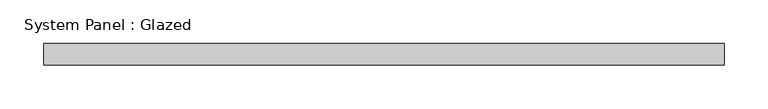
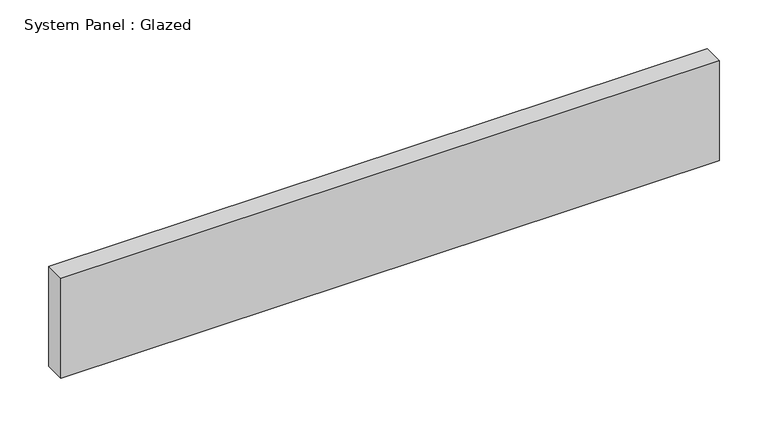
"""IFC4 building model written with IfcOpenShell, lengths in millimetres: plate geometry, System Panel : Glazed."""

import ifcopenshell
import ifcopenshell.guid

model = None  # the IFC model being written
_history = None  # IfcOwnerHistory: only IFC2X3 demands one
_inside = {}  # id of a spatial element -> (the spatial element, [elements in it])
_under = {}  # id of a project, library or spatial element -> (it, [spatial elements below it])
_declared = {}  # id of a project -> (the project, [libraries it declares])
_typed = {}  # id of a type object -> (the type object, [elements of that type])
_made_of = {}  # id of a material, layer set ... -> (it, [elements and type objects made of it])


def new_model(schema):
    """Start an empty IFC model of exactly this schema.

    Asked for "IFC4X3", IfcOpenShell would pick the latest addendum, in which some entities
    have other attributes; the version numbers below select the first issue.
    IFC2X3 requires an IfcOwnerHistory on every rooted entity: one is made here for all.
    """
    global model, _history
    if schema == "IFC4X3":
        model = ifcopenshell.file(schema_version=(4, 3, 0, 0))
    else:
        model = ifcopenshell.file(schema=schema)
    _inside.clear()
    _under.clear()
    _declared.clear()
    _typed.clear()
    _made_of.clear()
    _history = None
    if model.schema == "IFC2X3":
        org = make("IfcOrganization", Name="unknown")
        user = make(
            "IfcPersonAndOrganization",
            ThePerson=make("IfcPerson", FamilyName="unknown"),
            TheOrganization=org,
        )
        app = make(
            "IfcApplication",
            ApplicationDeveloper=org,
            Version="unknown",
            ApplicationFullName="unknown",
            ApplicationIdentifier="unknown",
        )
        _history = make(
            "IfcOwnerHistory",
            OwningUser=user,
            OwningApplication=app,
            ChangeAction="ADDED",
            CreationDate=0,
        )
    return model


def make(cls, **values):
    """One entity of the class cls with the attributes given. An attribute that is None is left unset."""
    return model.create_entity(
        cls, **{name: value for name, value in values.items() if value is not None}
    )


def rooted(cls, **values):
    """An entity with a GlobalId (a new one), such as an element, a storey or a relation."""
    return make(cls, GlobalId=ifcopenshell.guid.new(), OwnerHistory=_history, **values)


def si_unit(unit_type, name, prefix=None):
    """IfcSIUnit, for example si_unit("LENGTHUNIT", "METRE", prefix="MILLI")."""
    return make("IfcSIUnit", UnitType=unit_type, Prefix=prefix, Name=name)


def assignment(units):
    """IfcUnitAssignment: the units of a project."""
    return None if units is None else make("IfcUnitAssignment", Units=units)


def point(xyz):
    """IfcCartesianPoint."""
    return None if xyz is None else make("IfcCartesianPoint", Coordinates=xyz)


def direction(xyz):
    """IfcDirection."""
    return None if xyz is None else make("IfcDirection", DirectionRatios=xyz)


def frame(location, z_axis=None, x_axis=None):
    """IfcAxis2Placement3D, a coordinate frame: its origin and axes. An axis left out is left unset."""
    return make(
        "IfcAxis2Placement3D",
        Location=point(location),
        Axis=direction(z_axis),
        RefDirection=direction(x_axis),
    )


def origin():
    """The frame at (0, 0, 0) with its axes left unset."""
    return frame((0.0, 0.0, 0.0))


def origin_with_axes():
    """The frame at (0, 0, 0) with the z axis (0, 0, 1) and the x axis (1, 0, 0) written out."""
    return frame((0.0, 0.0, 0.0), z_axis=(0.0, 0.0, 1.0), x_axis=(1.0, 0.0, 0.0))


def place(relative_to, where):
    """IfcLocalPlacement: puts the frame where relative to a parent placement (None: the world)."""
    return make(
        "IfcLocalPlacement", PlacementRelTo=relative_to, RelativePlacement=where
    )


def context(
    kind, dimensions, precision=None, world=None, true_north=None, identifier=None
):
    """IfcGeometricRepresentationContext, for example the 3D "Model" context."""
    return make(
        "IfcGeometricRepresentationContext",
        ContextIdentifier=identifier,
        ContextType=kind,
        CoordinateSpaceDimension=dimensions,
        Precision=precision,
        WorldCoordinateSystem=world,
        TrueNorth=true_north,
    )


def project(units=None, contexts=None):
    """IfcProject with its units and contexts."""
    return rooted(
        "IfcProject",
        Name="project",
        RepresentationContexts=contexts,
        UnitsInContext=assignment(units),
    )


def spatial(cls, under=None, at=None, **own):
    """A site, building, storey or space (cls), placed at a placement, below another one or the project."""
    s = rooted(cls, ObjectPlacement=at, **own)
    if under is not None:
        _under.setdefault(under.id(), (under, []))[1].append(s)
    return s


def polyline(points):
    """IfcPolyline through the points."""
    return make("IfcPolyline", Points=[point(p) for p in points])


def outline(outer, holes=None, kind="AREA"):
    """IfcArbitraryClosedProfileDef: a profile drawn as a closed curve; with holes, ...WithVoids."""
    if holes is None:
        return make("IfcArbitraryClosedProfileDef", ProfileType=kind, OuterCurve=outer)
    return make(
        "IfcArbitraryProfileDefWithVoids",
        ProfileType=kind,
        OuterCurve=outer,
        InnerCurves=holes,
    )


def extrude(swept, where, along, depth):
    """IfcExtrudedAreaSolid: the profile swept, set in the frame where, extruded along a direction by depth."""
    return make(
        "IfcExtrudedAreaSolid",
        SweptArea=swept,
        Position=where,
        ExtrudedDirection=direction(along),
        Depth=depth,
    )


def shape(context_of_items, identifier, shape_type, items):
    """IfcShapeRepresentation: the items that make up one representation, for example the "Body"."""
    return make(
        "IfcShapeRepresentation",
        ContextOfItems=context_of_items,
        RepresentationIdentifier=identifier,
        RepresentationType=shape_type,
        Items=items,
    )


def source(mapping_origin, context_of_items, identifier, shape_type, items):
    """IfcRepresentationMap: a shape defined once, which mapped items show again and again."""
    return make(
        "IfcRepresentationMap",
        MappingOrigin=mapping_origin,
        MappedRepresentation=shape(context_of_items, identifier, shape_type, items),
    )


def transform(
    local_origin,
    x_axis=None,
    y_axis=None,
    z_axis=None,
    scale=None,
    scale2=None,
    scale3=None,
    uniform=True,
):
    """IfcCartesianTransformationOperator3D, or its non-uniform kind. x_axis, y_axis, z_axis: its Axis1, 2, 3."""
    if uniform:
        return make(
            "IfcCartesianTransformationOperator3D",
            Axis1=direction(x_axis),
            Axis2=direction(y_axis),
            LocalOrigin=point(local_origin),
            Scale=scale,
            Axis3=direction(z_axis),
        )
    return make(
        "IfcCartesianTransformationOperator3DnonUniform",
        Axis1=direction(x_axis),
        Axis2=direction(y_axis),
        LocalOrigin=point(local_origin),
        Scale=scale,
        Axis3=direction(z_axis),
        Scale2=scale2,
        Scale3=scale3,
    )


def mapped(mapping_source, mapping_target):
    """IfcMappedItem: shows the shape of a source again, moved by a transform."""
    return make(
        "IfcMappedItem", MappingSource=mapping_source, MappingTarget=mapping_target
    )


def made_of(thing, what):
    """Note that an element or type object is made of a material, layer set ...; save() writes the relation."""
    if what is not None:
        _made_of.setdefault(what.id(), (what, []))[1].append(thing)
    return thing


def element(
    cls,
    number,
    at=None,
    inside=None,
    cuts=None,
    type_object=None,
    material=None,
    context=None,
    identifier="Body",
    shape_type=None,
    held_by="IfcProductDefinitionShape",
    body=None,
    shapes=None,
    **own,
):
    """One element of the class cls, such as IfcWall. Its Tag is "e" and its number.

    at: its placement. inside: the storey or other place that contains it. cuts: it is an
    opening in that element (IfcRelVoidsElement). A single representation is given by context,
    identifier, shape_type and body (its items); several are given by shapes. held_by: the class
    of the entity that holds the representations. save() writes the other relations.
    """
    e = rooted(cls, Tag="e%d" % number, ObjectPlacement=at, **own)
    if body is not None:
        shapes = [shape(context, identifier, shape_type, body)]
    if shapes is not None:
        e.Representation = make(held_by, Representations=shapes)
    if inside is not None:
        _inside.setdefault(inside.id(), (inside, []))[1].append(e)
    if cuts is not None:
        rooted(
            "IfcRelVoidsElement", RelatingBuildingElement=cuts, RelatedOpeningElement=e
        )
    if type_object is not None:
        _typed.setdefault(type_object.id(), (type_object, []))[1].append(e)
    return made_of(e, material)


def aggregate(whole, parts):
    """IfcRelAggregates: a whole, such as a stair, and the parts it consists of."""
    return rooted("IfcRelAggregates", RelatingObject=whole, RelatedObjects=parts)


def save(model, path):
    """Write the relations noted so far, then the file.

    IfcRelAggregates (storeys below a building ...), IfcRelContainedInSpatialStructure (elements
    in a storey), IfcRelDefinesByType, IfcRelAssociatesMaterial and IfcRelDeclares: one each for
    every whole, place, type object, material and project.
    """
    for whole, parts in _under.values():
        aggregate(whole, parts)
    for where, things in _inside.values():
        rooted(
            "IfcRelContainedInSpatialStructure",
            RelatedElements=things,
            RelatingStructure=where,
        )
    for kind, things in _typed.values():
        rooted("IfcRelDefinesByType", RelatedObjects=things, RelatingType=kind)
    for what, things in _made_of.values():
        rooted("IfcRelAssociatesMaterial", RelatedObjects=things, RelatingMaterial=what)
    for by, libraries in _declared.values():
        rooted("IfcRelDeclares", RelatingContext=by, RelatedDefinitions=libraries)
    model.write(path)


def system_panel_glazed_d0d156c8(model_context):
    return source(origin(), model_context, "Body", "SweptSolid", [
        extrude(outline(polyline([(389.9146548, 24.5), (-389.9146548, 24.5), (-389.9146548, 49.5), (389.9146548, 49.5), (389.9146548, 24.5)])), origin_with_axes(), (0.0, 0.0, 1.0), 125.0),
    ])


if __name__ == "__main__":
    model = new_model("IFC4")
    model_context = context("Model", 3, world=origin())
    ifc_project = project(units=[si_unit("LENGTHUNIT", "METRE", prefix="MILLI")], contexts=[model_context])
    site = spatial("IfcSite", under=ifc_project)
    building = spatial("IfcBuilding", under=site)
    placement = place(None, origin())
    system_panel_glazed_shape = system_panel_glazed_d0d156c8(model_context)
    element("IfcPlate", 1, ObjectType="System Panel : Glazed", at=placement, inside=building, context=model_context, shape_type="MappedRepresentation", body=[
        mapped(system_panel_glazed_shape, transform((0.0, 0.0, 0.0), x_axis=(1.0, 0.0, 0.0), y_axis=(0.0, 1.0, 0.0), z_axis=(0.0, 0.0, 1.0))),
    ])
    save(model, "model.ifc")
